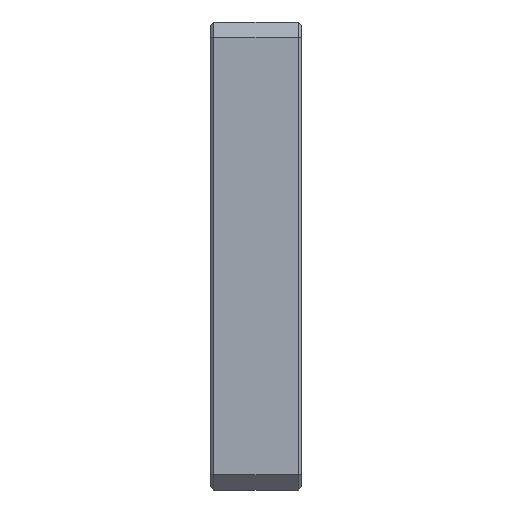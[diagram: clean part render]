
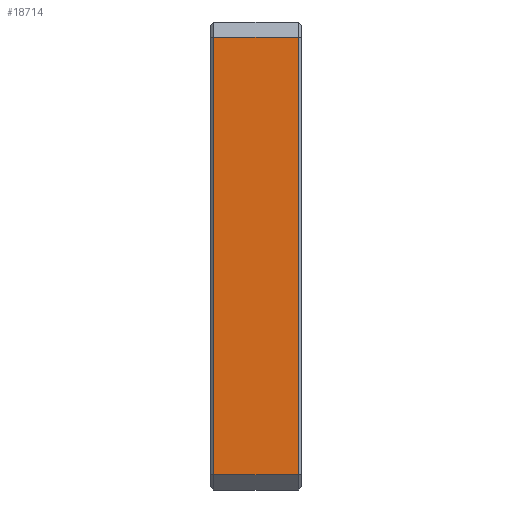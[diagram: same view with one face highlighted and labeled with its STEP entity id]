
A CAD part, left-side view. The second image highlights one B-rep face of the part: STEP entity #18714.
In plain terms, the highlighted planar face has unit normal (-1, 0, 0).
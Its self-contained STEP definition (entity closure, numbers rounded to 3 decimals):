
#484=DIRECTION('',(0.,0.,-1.));
#485=VECTOR('',#484,145.);
#486=CARTESIAN_POINT('',(-77.5,29.,72.5));
#487=LINE('',#486,#485);
#4485=DIRECTION('',(0.,-1.,0.));
#4486=VECTOR('',#4485,28.);
#4487=CARTESIAN_POINT('',(-77.5,29.,-72.5));
#4488=LINE('',#4487,#4486);
#4493=DIRECTION('',(0.,-1.,0.));
#4494=VECTOR('',#4493,28.);
#4495=CARTESIAN_POINT('',(-77.5,29.,72.5));
#4496=LINE('',#4495,#4494);
#4497=DIRECTION('',(0.,0.,-1.));
#4498=VECTOR('',#4497,145.);
#4499=CARTESIAN_POINT('',(-77.5,1.,72.5));
#4500=LINE('',#4499,#4498);
#11753=CARTESIAN_POINT('',(-77.5,29.,-72.5));
#11754=VERTEX_POINT('',#11753);
#11757=CARTESIAN_POINT('',(-77.5,29.,72.5));
#11758=VERTEX_POINT('',#11757);
#11763=CARTESIAN_POINT('',(-77.5,1.,72.5));
#11764=VERTEX_POINT('',#11763);
#13312=CARTESIAN_POINT('',(-77.5,1.,-72.5));
#13313=VERTEX_POINT('',#13312);
#18702=CARTESIAN_POINT('',(-77.5,30.,77.5));
#18703=DIRECTION('',(1.,0.,0.));
#18704=DIRECTION('',(0.,0.,-1.));
#18705=AXIS2_PLACEMENT_3D('',#18702,#18703,#18704);
#18706=PLANE('',#18705);
#18707=ORIENTED_EDGE('',*,*,#15023,.F.);
#18708=ORIENTED_EDGE('',*,*,#15053,.T.);
#18710=ORIENTED_EDGE('',*,*,#18709,.T.);
#18711=ORIENTED_EDGE('',*,*,#18694,.F.);
#18712=EDGE_LOOP('',(#18707,#18708,#18710,#18711));
#18713=FACE_OUTER_BOUND('',#18712,.F.);
#18714=ADVANCED_FACE('',(#18713),#18706,.F.);
#15023=EDGE_CURVE('',#11758,#11754,#487,.T.);
#15053=EDGE_CURVE('',#11758,#11764,#4496,.T.);
#18694=EDGE_CURVE('',#11754,#13313,#4488,.T.);
#18709=EDGE_CURVE('',#11764,#13313,#4500,.T.);
